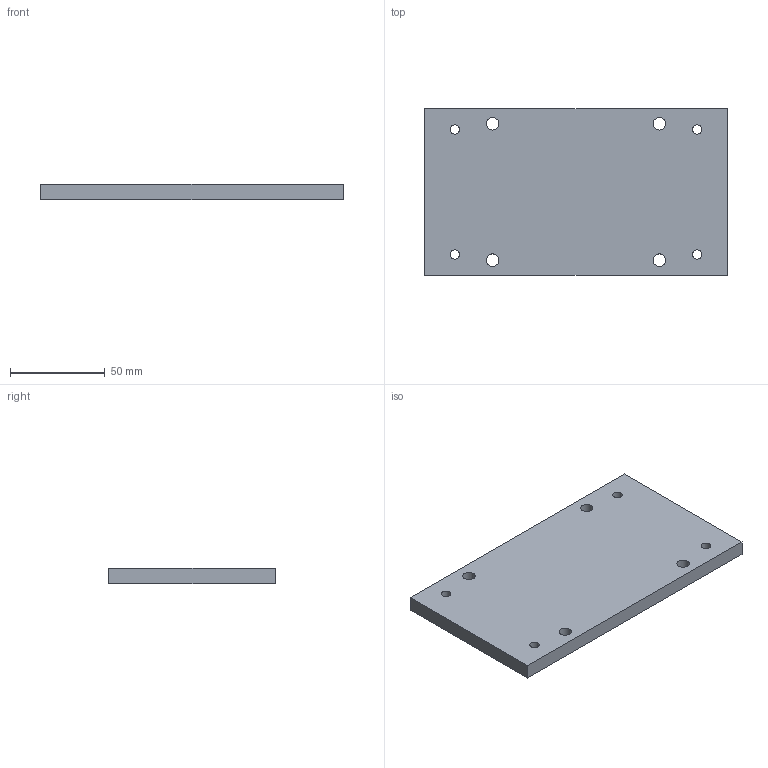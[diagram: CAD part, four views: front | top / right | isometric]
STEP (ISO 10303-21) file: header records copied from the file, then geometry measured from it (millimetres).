
FILE_DESCRIPTION(('FreeCAD Model'),'2;1');
FILE_NAME('Open CASCADE Shape Model','2026-11-20T03:22:07',('FreeCAD'),( 'FreeCAD'),'Open CASCADE STEP processor 7.8','FreeCAD','Unknown');
FILE_SCHEMA(('AUTOMOTIVE_DESIGN { 1 0 10303 214 1 1 1 1 }'));
Length unit declared in the file: millimetre
Products named in the file (1): Open CASCADE STEP translator 7.8 1
Bounding box: 160 x 88 x 8 mm (x, y, z)
Volume: 110916.9 mm3; surface area: 32863.4 mm2
Topology: 1 solids, 1 shells, 14 faces, 36 edges, 24 vertices
Faces by surface type: cylinder 8, plane 6
Full cylindrical faces by diameter (mm): 5 x4, 6.6 x4
Entity records: 478 total; most frequent: DIRECTION 82, CARTESIAN_POINT 75, ORIENTED_EDGE 72, EDGE_CURVE 36, AXIS2_PLACEMENT_3D 31, FACE_BOUND 30, EDGE_LOOP 30, VERTEX_POINT 24
